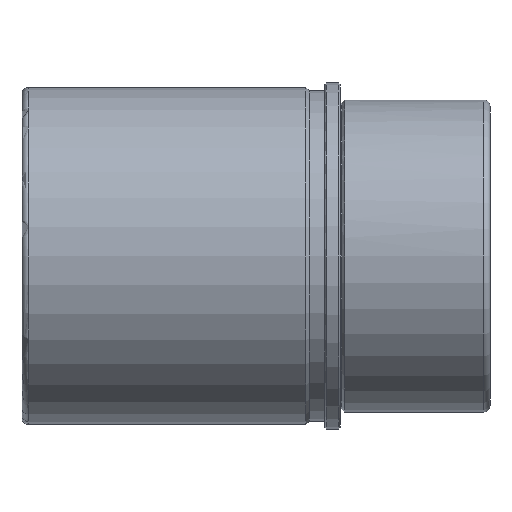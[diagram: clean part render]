
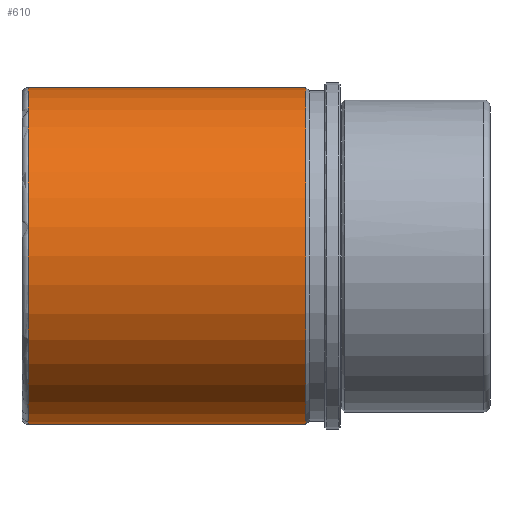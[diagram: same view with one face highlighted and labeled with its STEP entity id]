
A CAD part, front view. The second image highlights one B-rep face of the part: STEP entity #610.
In plain terms, the highlighted cylindrical face has radius 54 mm (diameter 108 mm), a partial arc.
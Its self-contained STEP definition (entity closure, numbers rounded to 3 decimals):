
#396=CARTESIAN_POINT('Line Origine',(48.,0.,54.)) ;
#400=CARTESIAN_POINT('Vertex',(-11.,0.,54.)) ;
#402=CARTESIAN_POINT('Vertex',(-100.,0.,54.)) ;
#416=CARTESIAN_POINT('Vertex',(-11.,0.,-54.)) ;
#419=CARTESIAN_POINT('Line Origine',(48.,0.,-54.)) ;
#423=CARTESIAN_POINT('Vertex',(-100.,0.,-54.)) ;
#573=CARTESIAN_POINT('Axis2P3D Location',(48.,0.,0.)) ;
#578=CARTESIAN_POINT('Axis2P3D Location',(-11.,0.,0.)) ;
#582=CARTESIAN_POINT('Vertex',(-11.,-54.,0.)) ;
#585=CARTESIAN_POINT('Axis2P3D Location',(-11.,0.,0.)) ;
#590=CARTESIAN_POINT('Axis2P3D Location',(-100.,0.,0.)) ;
#594=CARTESIAN_POINT('Vertex',(-100.,-54.,0.)) ;
#597=CARTESIAN_POINT('Axis2P3D Location',(-100.,0.,0.)) ;
#397=DIRECTION('Vector Direction',(-1.,0.,0.)) ;
#420=DIRECTION('Vector Direction',(-1.,0.,0.)) ;
#574=DIRECTION('Axis2P3D Direction',(-1.,-0.,-0.)) ;
#575=DIRECTION('Axis2P3D XDirection',(0.,0.,-1.)) ;
#579=DIRECTION('Axis2P3D Direction',(-1.,-0.,-0.)) ;
#586=DIRECTION('Axis2P3D Direction',(-1.,-0.,-0.)) ;
#591=DIRECTION('Axis2P3D Direction',(-1.,-0.,-0.)) ;
#598=DIRECTION('Axis2P3D Direction',(-1.,-0.,-0.)) ;
#576=AXIS2_PLACEMENT_3D('Cylinder Axis2P3D',#573,#574,#575) ;
#580=AXIS2_PLACEMENT_3D('Circle Axis2P3D',#578,#579,$) ;
#587=AXIS2_PLACEMENT_3D('Circle Axis2P3D',#585,#586,$) ;
#592=AXIS2_PLACEMENT_3D('Circle Axis2P3D',#590,#591,$) ;
#599=AXIS2_PLACEMENT_3D('Circle Axis2P3D',#597,#598,$) ;
#603=ORIENTED_EDGE('',*,*,#425,.T.) ;
#604=ORIENTED_EDGE('',*,*,#584,.F.) ;
#605=ORIENTED_EDGE('',*,*,#589,.F.) ;
#606=ORIENTED_EDGE('',*,*,#404,.T.) ;
#607=ORIENTED_EDGE('',*,*,#596,.T.) ;
#608=ORIENTED_EDGE('',*,*,#601,.T.) ;
#398=VECTOR('Line Direction',#397,1.) ;
#421=VECTOR('Line Direction',#420,1.) ;
#610=ADVANCED_FACE('CF 655 80 x 150',(#609),#577,.T.) ;
#581=CIRCLE('generated circle',#580,54.) ;
#588=CIRCLE('generated circle',#587,54.) ;
#593=CIRCLE('generated circle',#592,54.) ;
#600=CIRCLE('generated circle',#599,54.) ;
#577=CYLINDRICAL_SURFACE('generated cylinder',#576,54.) ;
#404=EDGE_CURVE('',#401,#403,#399,.T.) ;
#425=EDGE_CURVE('',#424,#417,#422,.F.) ;
#584=EDGE_CURVE('',#583,#417,#581,.F.) ;
#589=EDGE_CURVE('',#401,#583,#588,.F.) ;
#596=EDGE_CURVE('',#403,#595,#593,.F.) ;
#601=EDGE_CURVE('',#595,#424,#600,.F.) ;
#602=EDGE_LOOP('',(#603,#604,#605,#606,#607,#608)) ;
#609=FACE_OUTER_BOUND('',#602,.T.) ;
#399=LINE('Line',#396,#398) ;
#422=LINE('Line',#419,#421) ;
#401=VERTEX_POINT('',#400) ;
#403=VERTEX_POINT('',#402) ;
#417=VERTEX_POINT('',#416) ;
#424=VERTEX_POINT('',#423) ;
#583=VERTEX_POINT('',#582) ;
#595=VERTEX_POINT('',#594) ;
